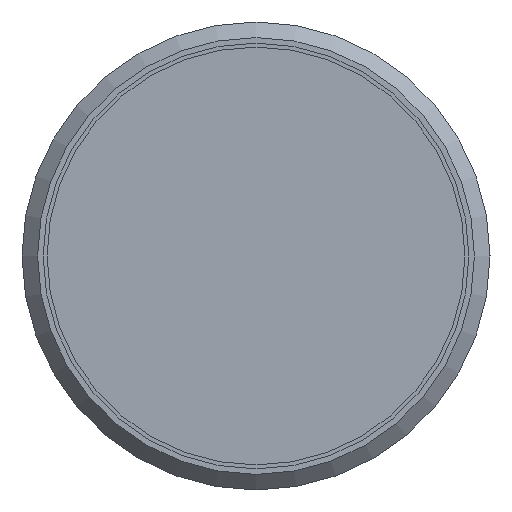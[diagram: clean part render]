
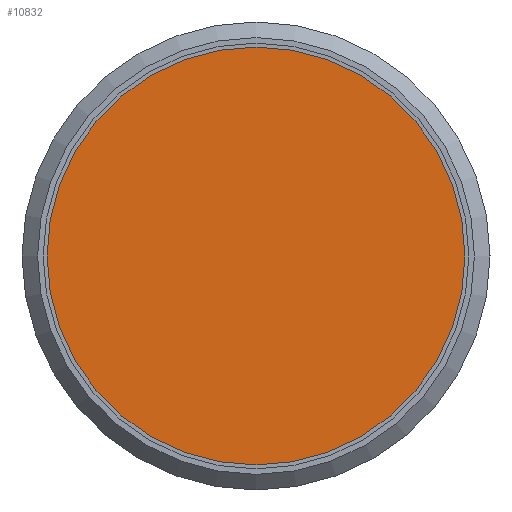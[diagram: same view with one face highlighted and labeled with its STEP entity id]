
A CAD part, left-side view. The second image highlights one B-rep face of the part: STEP entity #10832.
In plain terms, the highlighted planar face has unit normal (-1, 0, 0).
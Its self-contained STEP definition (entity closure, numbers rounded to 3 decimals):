
#21=PLANE('',#11394);
#2229=ORIENTED_EDGE('',*,*,#4636,.F.);
#4636=EDGE_CURVE('',#5817,#5817,#6247,.T.);
#5817=VERTEX_POINT('',#16645);
#6247=CIRCLE('',#11395,8.035);
#6505=EDGE_LOOP('',(#2229));
#7002=FACE_BOUND('',#6505,.T.);
#10832=ADVANCED_FACE('',(#7002),#21,.F.);
#11394=AXIS2_PLACEMENT_3D('',#16643,#12307,#12308);
#11395=AXIS2_PLACEMENT_3D('',#16644,#12309,#12310);
#12307=DIRECTION('',(1.,0.,0.));
#12308=DIRECTION('',(0.,0.,-1.));
#12309=DIRECTION('',(1.,0.,0.));
#12310=DIRECTION('',(0.,0.,-1.));
#16643=CARTESIAN_POINT('',(0.,0.,0.));
#16644=CARTESIAN_POINT('',(0.,0.,0.));
#16645=CARTESIAN_POINT('',(0.,0.,-8.035));
